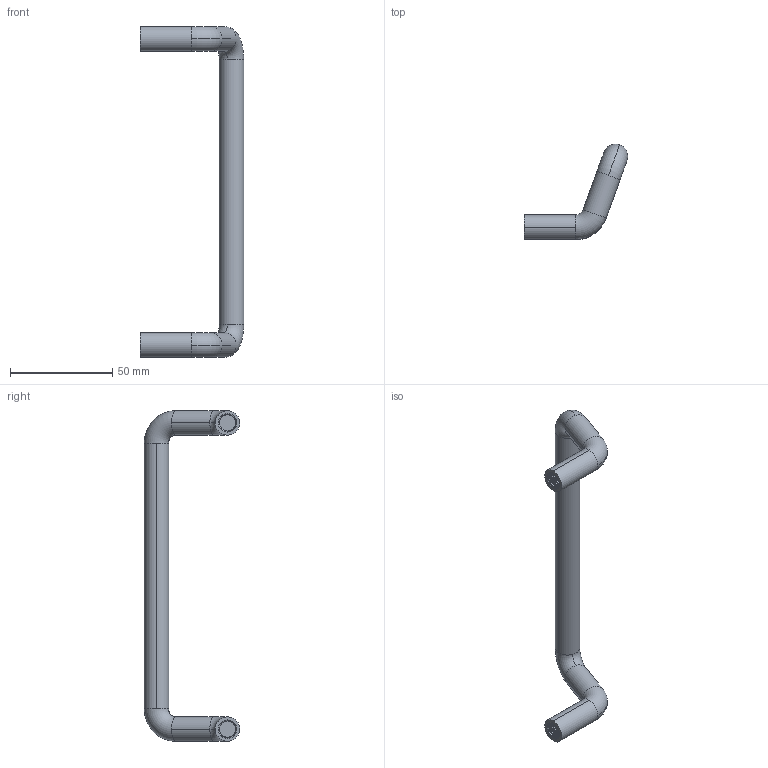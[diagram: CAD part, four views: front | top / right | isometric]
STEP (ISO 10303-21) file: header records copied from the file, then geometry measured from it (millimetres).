
FILE_DESCRIPTION (( 'STEP AP203' ), '1' );
FILE_NAME ('KA-1235-1.STEP', '2010-02-25T06:16:24', ( ' ' ), ( '' ), 'SwSTEP 2.0', 'SolidWorks 2010', '' );
FILE_SCHEMA (( 'CONFIG_CONTROL_DESIGN' ));
Length unit declared in the file: millimetre
Products named in the file (1): KA-1235-1
Bounding box: 50.65 x 46.77 x 162 mm (x, y, z)
Volume: 29388.7 mm3; surface area: 12178.9 mm2
Topology: 1 solids, 1 shells, 92 faces, 258 edges, 170 vertices
Faces by surface type: cylinder 66, torus 14, plane 6, bspline 6
Entity records: 12617 total; most frequent: CARTESIAN_POINT 10509, ORIENTED_EDGE 516, DIRECTION 358, EDGE_CURVE 258, VERTEX_POINT 170, AXIS2_PLACEMENT_3D 145, EDGE_LOOP 94, ADVANCED_FACE 92
